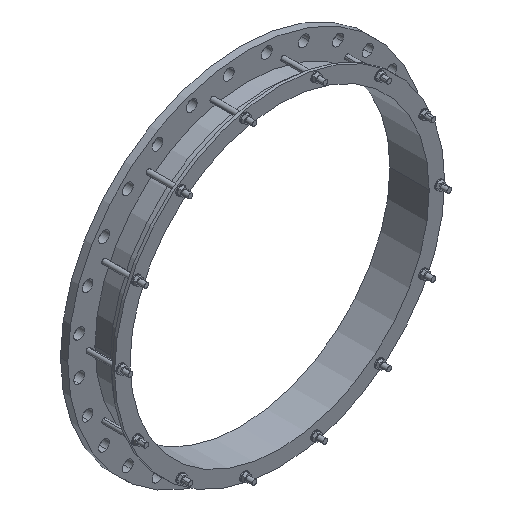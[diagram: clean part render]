
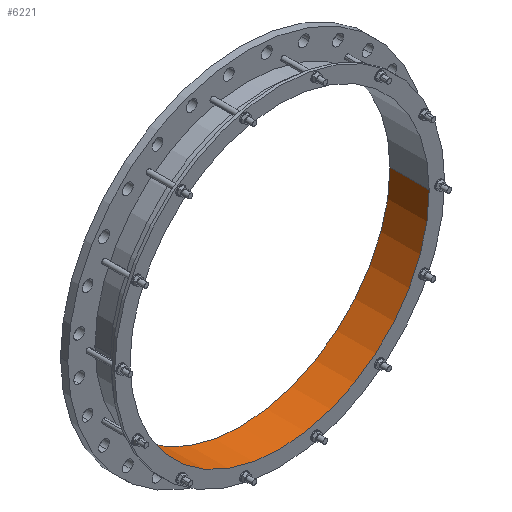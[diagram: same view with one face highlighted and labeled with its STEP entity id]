
A CAD part, isometric view. The second image highlights one B-rep face of the part: STEP entity #6221.
In plain terms, the highlighted cylindrical face has radius 511.25 mm (diameter 1022.5 mm), a partial arc.
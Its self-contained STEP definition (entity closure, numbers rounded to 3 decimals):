
#7=CARTESIAN_POINT('',(0.,25.,0.));
#8=DIRECTION('',(0.,1.,0.));
#9=DIRECTION('',(1.,0.,0.));
#10=AXIS2_PLACEMENT_3D('',#7,#8,#9);
#1700=CARTESIAN_POINT('',(0.,-109.,0.));
#1701=DIRECTION('',(0.,1.,0.));
#1702=DIRECTION('',(1.,0.,0.));
#1703=AXIS2_PLACEMENT_3D('',#1700,#1701,#1702);
#1705=DIRECTION('',(0.,1.,0.));
#1706=VECTOR('',#1705,134.);
#1707=CARTESIAN_POINT('',(511.25,-109.,0.));
#1708=LINE('',#1707,#1706);
#1709=DIRECTION('',(0.,1.,0.));
#1710=VECTOR('',#1709,134.);
#1711=CARTESIAN_POINT('',(-511.25,-109.,0.));
#1712=LINE('',#1711,#1710);
#4278=CARTESIAN_POINT('',(511.25,-109.,0.));
#4279=CARTESIAN_POINT('',(511.25,25.,0.));
#4280=VERTEX_POINT('',#4278);
#4281=VERTEX_POINT('',#4279);
#4290=CARTESIAN_POINT('',(-511.25,-109.,0.));
#4291=CARTESIAN_POINT('',(-511.25,25.,0.));
#4292=VERTEX_POINT('',#4290);
#4293=VERTEX_POINT('',#4291);
#6208=CARTESIAN_POINT('',(0.,-115.7,0.));
#6209=DIRECTION('',(0.,1.,0.));
#6210=DIRECTION('',(-1.,0.,0.));
#6211=AXIS2_PLACEMENT_3D('',#6208,#6209,#6210);
#6212=CYLINDRICAL_SURFACE('',#6211,511.25);
#6214=ORIENTED_EDGE('',*,*,#6213,.F.);
#6215=ORIENTED_EDGE('',*,*,#6119,.T.);
#6217=ORIENTED_EDGE('',*,*,#6216,.T.);
#6218=ORIENTED_EDGE('',*,*,#5251,.F.);
#6219=EDGE_LOOP('',(#6214,#6215,#6217,#6218));
#6220=FACE_OUTER_BOUND('',#6219,.F.);
#6221=ADVANCED_FACE('',(#6220),#6212,.F.);
#11=CIRCLE('',#10,511.25);
#1704=CIRCLE('',#1703,511.25);
#5251=EDGE_CURVE('',#4281,#4293,#11,.T.);
#6119=EDGE_CURVE('',#4280,#4292,#1704,.T.);
#6213=EDGE_CURVE('',#4280,#4281,#1708,.T.);
#6216=EDGE_CURVE('',#4292,#4293,#1712,.T.);
